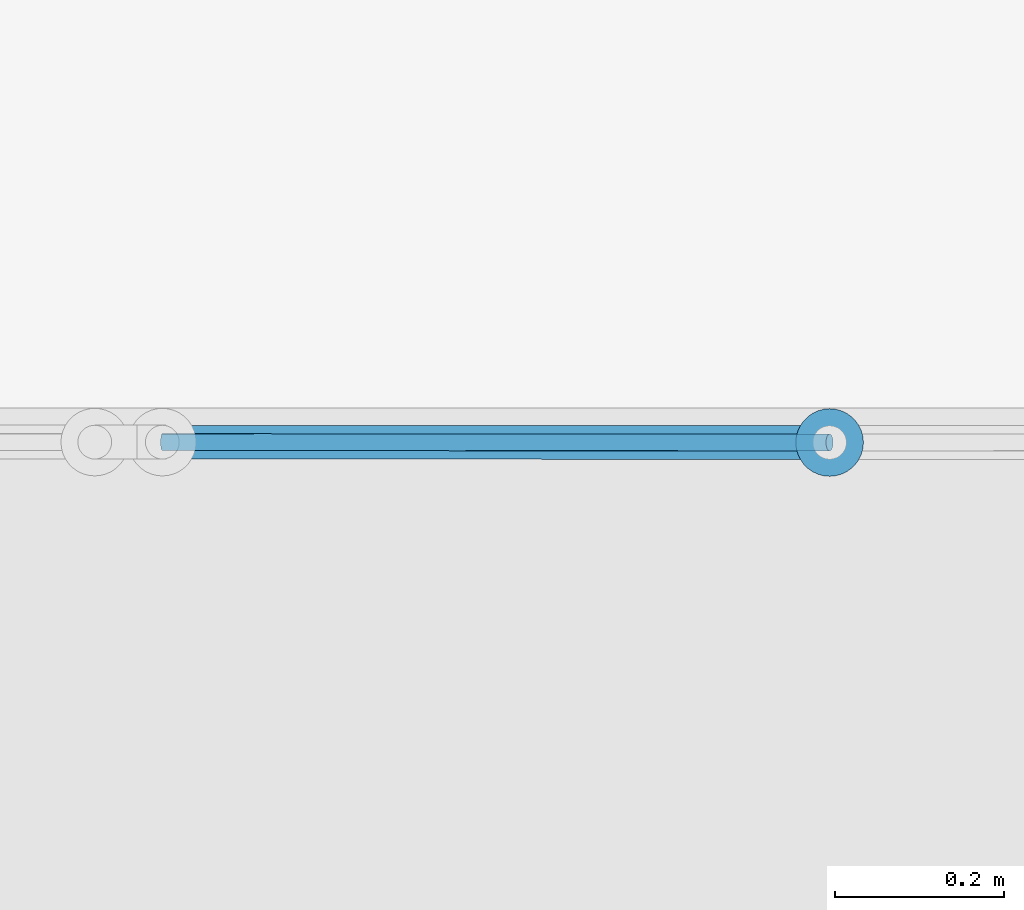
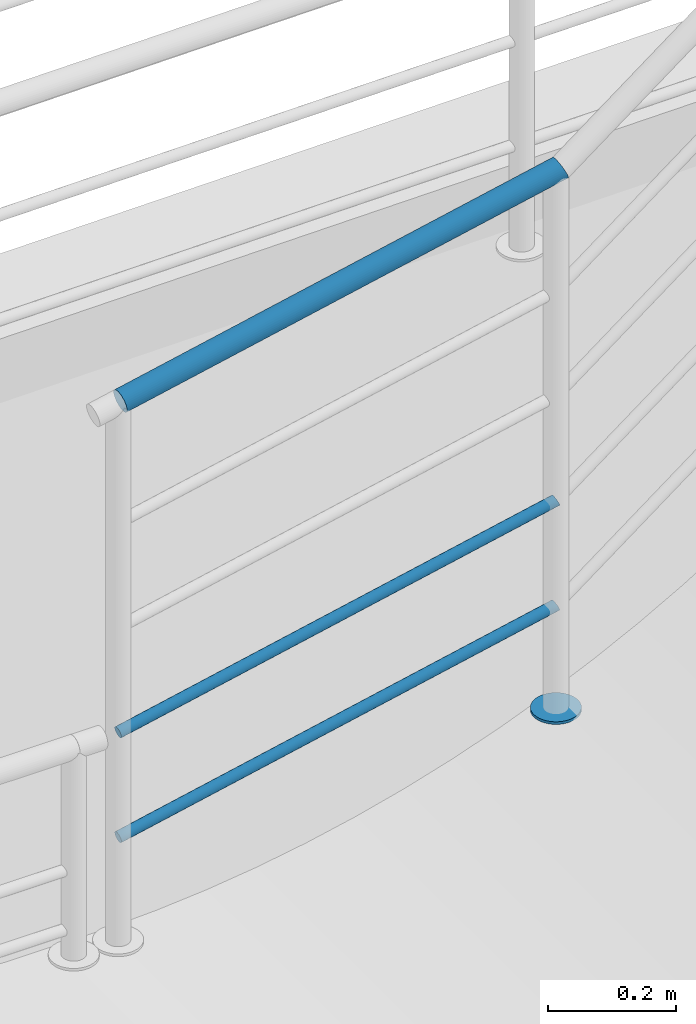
# One storey, part 117 of 237: 5 building element parts, 1 element without a shape of its own.
"""IFC2X3 building model written with IfcOpenShell, lengths in millimetres."""

from ifc_helpers import new_model, entity, si_unit, converted_unit, derived_unit, money_unit, direction, frame, origin_with_axes, place, context, subcontext, project, spatial, faceted_brep, material, type_object, element, aggregate, save


model = new_model("IFC2X3")

# Units and contexts
model_context = context("Model", 3, precision=0.01, world=origin_with_axes(), true_north=direction((0.0, 1.0)))
body_context = subcontext(model_context, "Body", "Model", "MODEL_VIEW")
ifc_project = project(units=[si_unit("LENGTHUNIT", "METRE", prefix="MILLI"), si_unit("AREAUNIT", "SQUARE_METRE"), si_unit("VOLUMEUNIT", "CUBIC_METRE"), converted_unit("PLANEANGLEUNIT", "DEGREE", entity("IfcPlaneAngleMeasure", 0.0174532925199), si_unit("PLANEANGLEUNIT", "RADIAN"), dimensions=[0, 0, 0, 0, 0, 0, 0]), money_unit("USD"), converted_unit("TIMEUNIT", "Year", entity("IfcTimeMeasure", 31556926.0), si_unit("TIMEUNIT", "SECOND"), dimensions=[0, 0, 1, 0, 0, 0, 0]), si_unit("MASSUNIT", "GRAM", prefix="KILO"), si_unit("THERMODYNAMICTEMPERATUREUNIT", "DEGREE_CELSIUS"), si_unit("LUMINOUSINTENSITYUNIT", "LUMEN"), si_unit("ENERGYUNIT", "JOULE", prefix="MEGA"), derived_unit("THERMALCONDUCTANCEUNIT", [(si_unit("POWERUNIT", "WATT"), 1), (si_unit("LENGTHUNIT", "METRE"), -1), (si_unit("THERMODYNAMICTEMPERATUREUNIT", "KELVIN"), -1)]), derived_unit("SPECIFICHEATCAPACITYUNIT", [(si_unit("ENERGYUNIT", "JOULE"), 1), (si_unit("MASSUNIT", "GRAM", prefix="KILO"), -1), (si_unit("THERMODYNAMICTEMPERATUREUNIT", "KELVIN"), -1)]), derived_unit("MASSDENSITYUNIT", [(si_unit("MASSUNIT", "GRAM", prefix="KILO"), 1), (si_unit("VOLUMEUNIT", "CUBIC_METRE"), -1)])], contexts=[model_context])

# Site, building, storey
site_placement = place(None, origin_with_axes())
site = spatial("IfcSite", under=ifc_project, at=site_placement, Name="Local", CompositionType="ELEMENT")
building_placement = place(site_placement, origin_with_axes())
building = spatial("IfcBuilding", under=site, at=building_placement, Name="Construção", CompositionType="ELEMENT")
storey_placement = place(building_placement, origin_with_axes())
storey = spatial("IfcBuildingStorey", under=building, at=storey_placement, Name="Pavimento Térreo", CompositionType="ELEMENT", Elevation=0.0)

# Railing, building element parts
railing_type = type_object("IfcRailingType", Name="Tipo de Guarda-Corpo", PredefinedType="NOTDEFINED")
railing_placement = place(storey_placement, frame((61612.4440926, 28006.4497128, -1265.99547451), z_axis=(0.0, 0.0, 1.0), x_axis=(-1.0, 0.0, 0.0)))
railing = element("IfcRailing", 1, at=railing_placement, inside=storey, type_object=railing_type, Name="Guarda-Corpo - 001", PredefinedType="NOTDEFINED")
ifc_material_1 = material(Name="Alumínio")
building_element_part_1_placement = place(railing_placement, origin_with_axes())
building_element_part_1 = element("IfcBuildingElementPart", 2, at=building_element_part_1_placement, material=ifc_material_1, Name="Alumínio", context=body_context, shape_type="Brep", body=[
    faceted_brep([(-789.670537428, -5847.77841823, 175.123116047), (-790.281802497, -5840.83280484, 175.123116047), (-790.281802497, -5840.83280484, 180.123116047), (-789.670537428, -5847.77841823, 180.123116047), (-790.274651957, -5854.72465721, 175.123116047), (-792.07579037, -5861.46046383, 175.123116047), (-795.019225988, -5867.781174, 175.123116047), (-799.015524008, -5873.49473616, 175.123116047), (-803.943258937, -5878.42754659, 175.123116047), (-809.652704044, -5882.42972437, 175.123116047), (-815.970380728, -5885.37966533, 175.123116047), (-822.70432958, -5887.18773702, 175.123116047), (-829.649942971, -5887.79900209, 175.123116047), (-836.596181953, -5887.19488756, 175.123116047), (-843.33198857, -5885.39374914, 175.123116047), (-849.652698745, -5882.45031353, 175.123116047), (-855.3662609, -5878.45401551, 175.123116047), (-860.299071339, -5873.52628058, 175.123116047), (-864.301249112, -5867.81683547, 175.123116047), (-867.251190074, -5861.49915879, 175.123116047), (-869.059261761, -5854.76520993, 175.123116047), (-869.67052683, -5847.81959654, 175.123116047), (-869.066412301, -5840.87335756, 175.123116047), (-867.265273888, -5834.13755094, 175.123116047), (-864.321838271, -5827.81684077, 175.123116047), (-860.325540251, -5822.10327861, 175.123116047), (-855.397805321, -5817.17046818, 175.123116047), (-849.688360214, -5813.1682904, 175.123116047), (-843.37068353, -5810.21834944, 175.123116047), (-836.636734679, -5808.41027775, 175.123116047), (-829.691121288, -5807.79901268, 175.123116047), (-822.744882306, -5808.40312721, 175.123116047), (-816.009075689, -5810.20426563, 175.123116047), (-809.688365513, -5813.14770124, 175.123116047), (-803.974803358, -5817.14399926, 175.123116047), (-799.04199292, -5822.07173419, 175.123116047), (-795.039815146, -5827.7811793, 175.123116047), (-792.089874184, -5834.09885598, 175.123116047), (-792.089874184, -5834.09885598, 180.123116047), (-795.039815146, -5827.7811793, 180.123116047), (-799.04199292, -5822.07173419, 180.123116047), (-803.974803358, -5817.14399926, 180.123116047), (-809.688365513, -5813.14770124, 180.123116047), (-816.009075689, -5810.20426563, 180.123116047), (-822.744882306, -5808.40312721, 180.123116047), (-829.691121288, -5807.79901268, 180.123116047), (-836.636734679, -5808.41027775, 180.123116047), (-843.37068353, -5810.21834944, 180.123116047), (-849.688360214, -5813.1682904, 180.123116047), (-855.397805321, -5817.17046818, 180.123116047), (-860.325540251, -5822.10327861, 180.123116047), (-864.321838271, -5827.81684077, 180.123116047), (-867.265273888, -5834.13755094, 180.123116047), (-869.066412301, -5840.87335756, 180.123116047), (-869.67052683, -5847.81959654, 180.123116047), (-869.059261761, -5854.76520993, 180.123116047), (-867.251190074, -5861.49915879, 180.123116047), (-864.301249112, -5867.81683547, 180.123116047), (-860.299071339, -5873.52628058, 180.123116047), (-855.3662609, -5878.45401551, 180.123116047), (-849.652698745, -5882.45031353, 180.123116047), (-843.33198857, -5885.39374914, 180.123116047), (-836.596181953, -5887.19488756, 180.123116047), (-829.649942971, -5887.79900209, 180.123116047), (-822.70432958, -5887.18773702, 180.123116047), (-815.970380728, -5885.37966533, 180.123116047), (-809.652704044, -5882.42972437, 180.123116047), (-803.943258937, -5878.42754659, 180.123116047), (-799.015524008, -5873.49473616, 180.123116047), (-795.019225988, -5867.781174, 180.123116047), (-792.07579037, -5861.46046383, 180.123116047), (-790.274651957, -5854.72465721, 180.123116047)], [[[0, 1, 2, 3]], [[0, 4, 5, 6, 7, 8, 9, 10, 11, 12, 13, 14, 15, 16, 17, 18, 19, 20, 21, 22, 23, 24, 25, 26, 27, 28, 29, 30, 31, 32, 33, 34, 35, 36, 37, 1]], [[1, 37, 38, 2]], [[3, 2, 38, 39, 40, 41, 42, 43, 44, 45, 46, 47, 48, 49, 50, 51, 52, 53, 54, 55, 56, 57, 58, 59, 60, 61, 62, 63, 64, 65, 66, 67, 68, 69, 70, 71]], [[4, 0, 3, 71]], [[5, 4, 71, 70]], [[6, 5, 70, 69]], [[7, 6, 69, 68]], [[8, 7, 68, 67]], [[9, 8, 67, 66]], [[10, 9, 66, 65]], [[11, 10, 65, 64]], [[12, 11, 64, 63]], [[13, 12, 63, 62]], [[14, 13, 62, 61]], [[15, 14, 61, 60]], [[16, 15, 60, 59]], [[17, 16, 59, 58]], [[18, 17, 58, 57]], [[19, 18, 57, 56]], [[20, 19, 56, 55]], [[21, 20, 55, 54]], [[22, 21, 54, 53]], [[23, 22, 53, 52]], [[24, 23, 52, 51]], [[25, 24, 51, 50]], [[26, 25, 50, 49]], [[27, 26, 49, 48]], [[28, 27, 48, 47]], [[29, 28, 47, 46]], [[30, 29, 46, 45]], [[31, 30, 45, 44]], [[32, 31, 44, 43]], [[33, 32, 43, 42]], [[34, 33, 42, 41]], [[35, 34, 41, 40]], [[36, 35, 40, 39]], [[37, 36, 39, 38]]]),
])
ifc_material_2 = material(Name="Aço - Inoxidável")
building_element_part_2_placement = place(railing_placement, origin_with_axes())
building_element_part_2 = element("IfcBuildingElementPart", 3, at=building_element_part_2_placement, material=ifc_material_2, Name="Aço - Inoxidável", context=body_context, shape_type="Brep", body=[
    faceted_brep([(-838.156856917, -5827.7983508, 1206.4844273), (-836.682977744, -5828.10230941, 1209.72280317), (-43.3799134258, -5828.54318147, 1042.27257724), (-839.630782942, -5828.10208214, 1203.24605142), (-841.059971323, -5829.00427469, 1200.10607196), (-842.400996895, -5830.47751581, 1197.15989559), (-843.613113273, -5832.4770418, 1194.49704041), (-844.659490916, -5834.94209807, 1192.1984159), (-845.508336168, -5837.79778515, 1190.33386463), (-846.133857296, -5840.95733442, 1188.96004003), (-846.517048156, -5844.32474457, 1188.11868507), (-846.646265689, -5847.79769856, 1187.83536389), (-846.517583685, -5851.27067243, 1188.11868507), (-846.134912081, -5854.63814164, 1188.96004003), (-845.509878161, -5857.79778732, 1190.33386463), (-844.661473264, -5860.65360526, 1192.1984159), (-843.615475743, -5863.11882285, 1194.49704041), (-842.403667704, -5865.11853573, 1197.15989559), (-841.062869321, -5866.59198361, 1200.10607196), (-839.633820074, -5867.49439654, 1203.24605142), (-838.159940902, -5867.79835515, 1206.4844273), (-836.686014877, -5867.49462381, 1209.72280317), (-835.256826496, -5866.59243125, 1212.86278263), (-833.915800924, -5865.11919014, 1215.808959), (-832.703684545, -5863.11966415, 1218.47181418), (-831.657306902, -5860.65460787, 1220.77043869), (-830.80846165, -5857.7989208, 1222.63498996), (-830.182940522, -5854.63937153, 1224.00881456), (-829.799749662, -5851.27196137, 1224.85016952), (-829.670532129, -5847.79900738, 1225.1334907), (-829.799214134, -5844.32603351, 1224.85016952), (-830.181885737, -5840.95856431, 1224.00881456), (-830.806919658, -5837.79891862, 1222.63498996), (-831.655324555, -5834.94310069, 1220.77043869), (-832.701322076, -5832.47788309, 1218.47181418), (-833.913130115, -5830.47817022, 1215.808959), (-835.253928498, -5829.00472234, 1212.86278263), (-42.6849371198, -5829.44587345, 1045.56741453), (-44.0970189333, -5828.23893489, 1038.87449083), (-44.8144647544, -5828.5423781, 1035.47640441), (-45.5104516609, -5829.44429112, 1032.18156713), (-46.1638324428, -5830.91726979, 1029.09009095), (-46.7547544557, -5832.9165584, 1026.2959088), (-47.2652628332, -5835.38140956, 1023.88392051), (-47.6798460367, -5838.23693003, 1021.92741311), (-47.9859071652, -5841.39635626, 1020.48583409), (-48.1741467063, -5844.76369069, 1019.6029851), (-48.2388450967, -5848.23661855, 1019.30569106), (-48.1780365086, -5851.70961671, 1019.6029851), (-47.9935685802, -5855.07715985, 1020.48583409), (-47.6910462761, -5858.2369269, 1021.92741311), (-47.2796615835, -5861.09290992, 1023.88392051), (-46.7719142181, -5863.55833132, 1026.2959088), (-46.1832318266, -5865.55828051, 1029.09009095), (-45.5315012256, -5867.03199006, 1032.18156713), (-44.8365249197, -5867.93468204, 1035.47640441), (-44.1194194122, -5868.23892862, 1038.87449083), (-43.4019735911, -5867.93548541, 1042.27257724), (-42.7059866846, -5867.03357238, 1045.56741453), (-42.0526059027, -5865.56059371, 1048.65889071), (-41.4616838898, -5863.56130511, 1051.45307285), (-40.9511755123, -5861.09645395, 1053.86506114), (-40.5365923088, -5858.24093348, 1055.82156854), (-40.2305311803, -5855.08150725, 1057.26314756), (-40.0422916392, -5851.71417282, 1058.14599655), (-39.9775932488, -5848.24124495, 1058.44329059), (-40.0384018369, -5844.7682468, 1058.14599655), (-40.2228697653, -5841.40070366, 1057.26314756), (-40.5253920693, -5838.24093661, 1055.82156854), (-40.936776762, -5835.38495359, 1053.86506114), (-41.4445241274, -5832.91953219, 1051.45307285), (-42.0332065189, -5830.919583, 1048.65889071)], [[[0, 1, 2]], [[0, 3, 4, 5, 6, 7, 8, 9, 10, 11, 12, 13, 14, 15, 16, 17, 18, 19, 20, 21, 22, 23, 24, 25, 26, 27, 28, 29, 30, 31, 32, 33, 34, 35, 36, 1]], [[1, 37, 2]], [[0, 2, 38]], [[3, 0, 38]], [[4, 3, 39]], [[5, 4, 40]], [[6, 5, 41]], [[7, 6, 42]], [[8, 7, 43]], [[9, 8, 44]], [[10, 9, 45]], [[11, 10, 46]], [[12, 11, 47]], [[13, 12, 48]], [[14, 13, 49]], [[15, 14, 50]], [[16, 15, 51]], [[17, 16, 52]], [[18, 17, 53]], [[19, 18, 54]], [[20, 19, 55]], [[21, 20, 56]], [[22, 21, 57]], [[23, 22, 58]], [[24, 23, 59]], [[25, 24, 60]], [[26, 25, 61]], [[27, 26, 62]], [[28, 27, 63]], [[29, 28, 64]], [[30, 29, 65]], [[31, 30, 66]], [[32, 31, 67]], [[33, 32, 68]], [[34, 33, 69]], [[35, 34, 70]], [[36, 35, 71]], [[1, 36, 37]], [[38, 2, 37, 71, 70, 69, 68, 67, 66, 65, 64, 63, 62, 61, 60, 59, 58, 57, 56, 55, 54, 53, 52, 51, 50, 49, 48, 47, 46, 45, 44, 43, 42, 41, 40, 39]], [[3, 38, 39]], [[4, 39, 40]], [[5, 40, 41]], [[6, 41, 42]], [[7, 42, 43]], [[8, 43, 44]], [[9, 44, 45]], [[10, 45, 46]], [[11, 46, 47]], [[12, 47, 48]], [[13, 48, 49]], [[14, 49, 50]], [[15, 50, 51]], [[16, 51, 52]], [[17, 52, 53]], [[18, 53, 54]], [[19, 54, 55]], [[20, 55, 56]], [[21, 56, 57]], [[22, 57, 58]], [[23, 58, 59]], [[24, 59, 60]], [[25, 60, 61]], [[26, 61, 62]], [[27, 62, 63]], [[28, 63, 64]], [[29, 64, 65]], [[30, 65, 66]], [[31, 66, 67]], [[32, 67, 68]], [[33, 68, 69]], [[34, 69, 70]], [[35, 70, 71]], [[36, 71, 37]]]),
])
building_element_part_3_placement = place(railing_placement, origin_with_axes())
building_element_part_3 = element("IfcBuildingElementPart", 4, at=building_element_part_3_placement, material=ifc_material_2, Name="Aço - Inoxidável", context=body_context, shape_type="Brep", body=[
    faceted_brep([(-829.669761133, -5837.7990063, 375.133490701), (-828.932821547, -5837.9509856, 376.752678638), (-39.6134403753, -5838.39336981, 210.142333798), (-830.406724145, -5837.95087197, 373.514302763), (-831.121318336, -5838.40196825, 371.944313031), (-831.791831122, -5839.1385888, 370.471224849), (-832.397889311, -5840.1383518, 369.139797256), (-832.921078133, -5841.37087994, 367.990485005), (-833.345500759, -5842.79872347, 367.058209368), (-833.658261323, -5844.37849811, 366.371297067), (-833.849856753, -5846.06220318, 365.950619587), (-833.914465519, -5847.79868018, 365.808958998), (-833.850124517, -5849.53516712, 365.950619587), (-833.658788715, -5851.21890172, 366.371297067), (-833.346271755, -5852.79872456, 367.058209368), (-832.922069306, -5854.22663353, 367.990485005), (-832.399070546, -5855.45924232, 369.139797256), (-831.793166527, -5856.45909876, 370.471224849), (-831.122767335, -5857.1958227, 371.944313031), (-830.408242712, -5857.64702917, 373.514302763), (-829.671303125, -5857.79900847, 375.133490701), (-828.934340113, -5857.6471428, 376.752678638), (-828.219745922, -5857.19604652, 378.32266837), (-827.549233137, -5856.45942597, 379.795756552), (-826.943174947, -5855.45966297, 381.127184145), (-826.419986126, -5854.22713483, 382.276496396), (-825.9955635, -5852.7992913, 383.208772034), (-825.682802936, -5851.21951666, 383.895684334), (-825.491207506, -5849.53581158, 384.316361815), (-825.426598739, -5847.79933459, 384.458022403), (-825.490939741, -5846.06284765, 384.316361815), (-825.682275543, -5844.37911305, 383.895684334), (-825.994792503, -5842.79929021, 383.208772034), (-826.418994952, -5841.37138124, 382.276496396), (-826.941993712, -5840.13877245, 381.127184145), (-827.547897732, -5839.13891601, 379.795756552), (-828.218296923, -5838.40219207, 378.32266837), (-39.2659522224, -5838.8447158, 211.789752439), (-39.9719931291, -5838.24124652, 208.443290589), (-40.3307160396, -5838.39296813, 206.74424738), (-40.6787094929, -5838.84392464, 205.096828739), (-41.0053998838, -5839.58041397, 203.551090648), (-41.3008608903, -5840.58005828, 202.153999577), (-41.556115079, -5841.81248386, 200.948005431), (-41.7634066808, -5843.24024409, 199.969751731), (-41.916437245, -5844.81995721, 199.248962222), (-42.0105570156, -5846.50362442, 198.807537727), (-42.0429062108, -5848.24008835, 198.658890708), (-42.0125019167, -5849.97658743, 198.807537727), (-41.9202679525, -5851.660359, 199.248962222), (-41.7690068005, -5853.24024253, 199.969751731), (-41.5633144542, -5854.66823404, 200.948005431), (-41.3094407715, -5855.90094474, 202.153999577), (-41.0150995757, -5856.90091933, 203.551090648), (-40.6892342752, -5857.63777411, 205.096828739), (-40.3417461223, -5858.0891201, 206.74424738), (-39.9831933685, -5858.24124339, 208.443290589), (-39.624470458, -5858.08952178, 210.142333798), (-39.2764770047, -5857.63856527, 211.789752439), (-38.9497866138, -5856.90207593, 213.335490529), (-38.6543256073, -5855.90243163, 214.732581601), (-38.3990714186, -5854.67000605, 215.938575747), (-38.1917798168, -5853.24224582, 216.916829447), (-38.0387492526, -5851.6625327, 217.637618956), (-37.944629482, -5849.97886549, 218.07904345), (-37.9122802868, -5848.24240156, 218.22769047), (-37.9426845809, -5846.50590248, 218.07904345), (-38.0349185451, -5844.82213091, 217.637618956), (-38.1861796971, -5843.24224738, 216.916829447), (-38.3918720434, -5841.81425587, 215.938575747), (-38.6457457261, -5840.58154517, 214.732581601), (-38.9400869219, -5839.58157058, 213.335490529)], [[[0, 1, 2]], [[0, 3, 4, 5, 6, 7, 8, 9, 10, 11, 12, 13, 14, 15, 16, 17, 18, 19, 20, 21, 22, 23, 24, 25, 26, 27, 28, 29, 30, 31, 32, 33, 34, 35, 36, 1]], [[1, 37, 2]], [[0, 2, 38]], [[3, 0, 38]], [[4, 3, 39]], [[5, 4, 40]], [[6, 5, 41]], [[7, 6, 42]], [[8, 7, 43]], [[9, 8, 44]], [[10, 9, 45]], [[11, 10, 46]], [[12, 11, 47]], [[13, 12, 48]], [[14, 13, 49]], [[15, 14, 50]], [[16, 15, 51]], [[17, 16, 52]], [[18, 17, 53]], [[19, 18, 54]], [[20, 19, 55]], [[21, 20, 56]], [[22, 21, 57]], [[23, 22, 58]], [[24, 23, 59]], [[25, 24, 60]], [[26, 25, 61]], [[27, 26, 62]], [[28, 27, 63]], [[29, 28, 64]], [[30, 29, 65]], [[31, 30, 66]], [[32, 31, 67]], [[33, 32, 68]], [[34, 33, 69]], [[35, 34, 70]], [[36, 35, 71]], [[1, 36, 37]], [[38, 2, 37, 71, 70, 69, 68, 67, 66, 65, 64, 63, 62, 61, 60, 59, 58, 57, 56, 55, 54, 53, 52, 51, 50, 49, 48, 47, 46, 45, 44, 43, 42, 41, 40, 39]], [[3, 38, 39]], [[4, 39, 40]], [[5, 40, 41]], [[6, 41, 42]], [[7, 42, 43]], [[8, 43, 44]], [[9, 44, 45]], [[10, 45, 46]], [[11, 46, 47]], [[12, 47, 48]], [[13, 48, 49]], [[14, 49, 50]], [[15, 50, 51]], [[16, 51, 52]], [[17, 52, 53]], [[18, 53, 54]], [[19, 54, 55]], [[20, 55, 56]], [[21, 56, 57]], [[22, 57, 58]], [[23, 58, 59]], [[24, 59, 60]], [[25, 60, 61]], [[26, 61, 62]], [[27, 62, 63]], [[28, 63, 64]], [[29, 64, 65]], [[30, 65, 66]], [[31, 66, 67]], [[32, 67, 68]], [[33, 68, 69]], [[34, 69, 70]], [[35, 70, 71]], [[36, 71, 37]]]),
])
building_element_part_4_placement = place(railing_placement, origin_with_axes())
building_element_part_4 = element("IfcBuildingElementPart", 5, at=building_element_part_4_placement, material=ifc_material_2, Name="Aço - Inoxidável", context=body_context, shape_type="Brep", body=[
    faceted_brep([(-829.669761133, -5837.7990063, 575.133490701), (-828.932821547, -5837.9509856, 576.752678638), (-39.6134403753, -5838.39336981, 410.142333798), (-830.406724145, -5837.95087197, 573.514302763), (-831.121318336, -5838.40196825, 571.944313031), (-831.791831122, -5839.1385888, 570.471224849), (-832.397889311, -5840.1383518, 569.139797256), (-832.921078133, -5841.37087994, 567.990485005), (-833.345500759, -5842.79872347, 567.058209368), (-833.658261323, -5844.37849811, 566.371297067), (-833.849856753, -5846.06220318, 565.950619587), (-833.914465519, -5847.79868018, 565.808958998), (-833.850124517, -5849.53516712, 565.950619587), (-833.658788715, -5851.21890172, 566.371297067), (-833.346271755, -5852.79872456, 567.058209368), (-832.922069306, -5854.22663353, 567.990485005), (-832.399070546, -5855.45924232, 569.139797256), (-831.793166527, -5856.45909876, 570.471224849), (-831.122767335, -5857.1958227, 571.944313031), (-830.408242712, -5857.64702917, 573.514302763), (-829.671303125, -5857.79900847, 575.133490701), (-828.934340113, -5857.6471428, 576.752678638), (-828.219745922, -5857.19604652, 578.32266837), (-827.549233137, -5856.45942597, 579.795756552), (-826.943174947, -5855.45966297, 581.127184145), (-826.419986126, -5854.22713483, 582.276496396), (-825.9955635, -5852.7992913, 583.208772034), (-825.682802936, -5851.21951666, 583.895684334), (-825.491207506, -5849.53581158, 584.316361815), (-825.426598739, -5847.79933459, 584.458022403), (-825.490939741, -5846.06284765, 584.316361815), (-825.682275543, -5844.37911305, 583.895684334), (-825.994792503, -5842.79929021, 583.208772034), (-826.418994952, -5841.37138124, 582.276496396), (-826.941993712, -5840.13877245, 581.127184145), (-827.547897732, -5839.13891601, 579.795756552), (-828.218296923, -5838.40219207, 578.32266837), (-39.2659522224, -5838.8447158, 411.789752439), (-39.9719931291, -5838.24124652, 408.443290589), (-40.3307160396, -5838.39296813, 406.74424738), (-40.6787094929, -5838.84392464, 405.096828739), (-41.0053998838, -5839.58041397, 403.551090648), (-41.3008608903, -5840.58005828, 402.153999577), (-41.556115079, -5841.81248386, 400.948005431), (-41.7634066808, -5843.24024409, 399.969751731), (-41.916437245, -5844.81995721, 399.248962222), (-42.0105570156, -5846.50362442, 398.807537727), (-42.0429062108, -5848.24008835, 398.658890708), (-42.0125019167, -5849.97658743, 398.807537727), (-41.9202679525, -5851.660359, 399.248962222), (-41.7690068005, -5853.24024253, 399.969751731), (-41.5633144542, -5854.66823404, 400.948005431), (-41.3094407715, -5855.90094474, 402.153999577), (-41.0150995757, -5856.90091933, 403.551090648), (-40.6892342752, -5857.63777411, 405.096828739), (-40.3417461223, -5858.0891201, 406.74424738), (-39.9831933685, -5858.24124339, 408.443290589), (-39.624470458, -5858.08952178, 410.142333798), (-39.2764770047, -5857.63856527, 411.789752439), (-38.9497866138, -5856.90207593, 413.335490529), (-38.6543256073, -5855.90243163, 414.732581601), (-38.3990714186, -5854.67000605, 415.938575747), (-38.1917798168, -5853.24224582, 416.916829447), (-38.0387492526, -5851.6625327, 417.637618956), (-37.944629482, -5849.97886549, 418.07904345), (-37.9122802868, -5848.24240156, 418.22769047), (-37.9426845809, -5846.50590248, 418.07904345), (-38.0349185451, -5844.82213091, 417.637618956), (-38.1861796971, -5843.24224738, 416.916829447), (-38.3918720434, -5841.81425587, 415.938575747), (-38.6457457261, -5840.58154517, 414.732581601), (-38.9400869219, -5839.58157058, 413.335490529)], [[[0, 1, 2]], [[0, 3, 4, 5, 6, 7, 8, 9, 10, 11, 12, 13, 14, 15, 16, 17, 18, 19, 20, 21, 22, 23, 24, 25, 26, 27, 28, 29, 30, 31, 32, 33, 34, 35, 36, 1]], [[1, 37, 2]], [[0, 2, 38]], [[3, 0, 38]], [[4, 3, 39]], [[5, 4, 40]], [[6, 5, 41]], [[7, 6, 42]], [[8, 7, 43]], [[9, 8, 44]], [[10, 9, 45]], [[11, 10, 46]], [[12, 11, 47]], [[13, 12, 48]], [[14, 13, 49]], [[15, 14, 50]], [[16, 15, 51]], [[17, 16, 52]], [[18, 17, 53]], [[19, 18, 54]], [[20, 19, 55]], [[21, 20, 56]], [[22, 21, 57]], [[23, 22, 58]], [[24, 23, 59]], [[25, 24, 60]], [[26, 25, 61]], [[27, 26, 62]], [[28, 27, 63]], [[29, 28, 64]], [[30, 29, 65]], [[31, 30, 66]], [[32, 31, 67]], [[33, 32, 68]], [[34, 33, 69]], [[35, 34, 70]], [[36, 35, 71]], [[1, 36, 37]], [[38, 2, 37, 71, 70, 69, 68, 67, 66, 65, 64, 63, 62, 61, 60, 59, 58, 57, 56, 55, 54, 53, 52, 51, 50, 49, 48, 47, 46, 45, 44, 43, 42, 41, 40, 39]], [[3, 38, 39]], [[4, 39, 40]], [[5, 40, 41]], [[6, 41, 42]], [[7, 42, 43]], [[8, 43, 44]], [[9, 44, 45]], [[10, 45, 46]], [[11, 46, 47]], [[12, 47, 48]], [[13, 48, 49]], [[14, 49, 50]], [[15, 50, 51]], [[16, 51, 52]], [[17, 52, 53]], [[18, 53, 54]], [[19, 54, 55]], [[20, 55, 56]], [[21, 56, 57]], [[22, 57, 58]], [[23, 58, 59]], [[24, 59, 60]], [[25, 60, 61]], [[26, 61, 62]], [[27, 62, 63]], [[28, 63, 64]], [[29, 64, 65]], [[30, 65, 66]], [[31, 66, 67]], [[32, 67, 68]], [[33, 68, 69]], [[34, 69, 70]], [[35, 70, 71]], [[36, 71, 37]]]),
])
building_element_part_5_placement = place(railing_placement, origin_with_axes())
building_element_part_5 = element("IfcBuildingElementPart", 6, at=building_element_part_5_placement, material=ifc_material_2, Name="Aço - Inoxidável", context=body_context, shape_type="Brep", body=[
    faceted_brep([(-829.669761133, -5837.7990063, 575.133490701), (-828.932821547, -5837.9509856, 576.752678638), (-39.6134403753, -5838.39336981, 410.142333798), (-830.406724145, -5837.95087197, 573.514302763), (-831.121318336, -5838.40196825, 571.944313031), (-831.791831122, -5839.1385888, 570.471224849), (-832.397889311, -5840.1383518, 569.139797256), (-832.921078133, -5841.37087994, 567.990485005), (-833.345500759, -5842.79872347, 567.058209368), (-833.658261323, -5844.37849811, 566.371297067), (-833.849856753, -5846.06220318, 565.950619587), (-833.914465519, -5847.79868018, 565.808958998), (-833.850124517, -5849.53516712, 565.950619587), (-833.658788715, -5851.21890172, 566.371297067), (-833.346271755, -5852.79872456, 567.058209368), (-832.922069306, -5854.22663353, 567.990485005), (-832.399070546, -5855.45924232, 569.139797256), (-831.793166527, -5856.45909876, 570.471224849), (-831.122767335, -5857.1958227, 571.944313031), (-830.408242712, -5857.64702917, 573.514302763), (-829.671303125, -5857.79900847, 575.133490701), (-828.934340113, -5857.6471428, 576.752678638), (-828.219745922, -5857.19604652, 578.32266837), (-827.549233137, -5856.45942597, 579.795756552), (-826.943174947, -5855.45966297, 581.127184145), (-826.419986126, -5854.22713483, 582.276496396), (-825.9955635, -5852.7992913, 583.208772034), (-825.682802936, -5851.21951666, 583.895684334), (-825.491207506, -5849.53581158, 584.316361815), (-825.426598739, -5847.79933459, 584.458022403), (-825.490939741, -5846.06284765, 584.316361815), (-825.682275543, -5844.37911305, 583.895684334), (-825.994792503, -5842.79929021, 583.208772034), (-826.418994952, -5841.37138124, 582.276496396), (-826.941993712, -5840.13877245, 581.127184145), (-827.547897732, -5839.13891601, 579.795756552), (-828.218296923, -5838.40219207, 578.32266837), (-39.2659522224, -5838.8447158, 411.789752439), (-39.9719931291, -5838.24124652, 408.443290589), (-40.3307160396, -5838.39296813, 406.74424738), (-40.6787094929, -5838.84392464, 405.096828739), (-41.0053998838, -5839.58041397, 403.551090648), (-41.3008608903, -5840.58005828, 402.153999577), (-41.556115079, -5841.81248386, 400.948005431), (-41.7634066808, -5843.24024409, 399.969751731), (-41.916437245, -5844.81995721, 399.248962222), (-42.0105570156, -5846.50362442, 398.807537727), (-42.0429062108, -5848.24008835, 398.658890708), (-42.0125019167, -5849.97658743, 398.807537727), (-41.9202679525, -5851.660359, 399.248962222), (-41.7690068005, -5853.24024253, 399.969751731), (-41.5633144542, -5854.66823404, 400.948005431), (-41.3094407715, -5855.90094474, 402.153999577), (-41.0150995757, -5856.90091933, 403.551090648), (-40.6892342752, -5857.63777411, 405.096828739), (-40.3417461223, -5858.0891201, 406.74424738), (-39.9831933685, -5858.24124339, 408.443290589), (-39.624470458, -5858.08952178, 410.142333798), (-39.2764770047, -5857.63856527, 411.789752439), (-38.9497866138, -5856.90207593, 413.335490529), (-38.6543256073, -5855.90243163, 414.732581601), (-38.3990714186, -5854.67000605, 415.938575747), (-38.1917798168, -5853.24224582, 416.916829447), (-38.0387492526, -5851.6625327, 417.637618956), (-37.944629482, -5849.97886549, 418.07904345), (-37.9122802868, -5848.24240156, 418.22769047), (-37.9426845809, -5846.50590248, 418.07904345), (-38.0349185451, -5844.82213091, 417.637618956), (-38.1861796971, -5843.24224738, 416.916829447), (-38.3918720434, -5841.81425587, 415.938575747), (-38.6457457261, -5840.58154517, 414.732581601), (-38.9400869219, -5839.58157058, 413.335490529)], [[[0, 1, 2]], [[0, 3, 4, 5, 6, 7, 8, 9, 10, 11, 12, 13, 14, 15, 16, 17, 18, 19, 20, 21, 22, 23, 24, 25, 26, 27, 28, 29, 30, 31, 32, 33, 34, 35, 36, 1]], [[1, 37, 2]], [[0, 2, 38]], [[3, 0, 38]], [[4, 3, 39]], [[5, 4, 40]], [[6, 5, 41]], [[7, 6, 42]], [[8, 7, 43]], [[9, 8, 44]], [[10, 9, 45]], [[11, 10, 46]], [[12, 11, 47]], [[13, 12, 48]], [[14, 13, 49]], [[15, 14, 50]], [[16, 15, 51]], [[17, 16, 52]], [[18, 17, 53]], [[19, 18, 54]], [[20, 19, 55]], [[21, 20, 56]], [[22, 21, 57]], [[23, 22, 58]], [[24, 23, 59]], [[25, 24, 60]], [[26, 25, 61]], [[27, 26, 62]], [[28, 27, 63]], [[29, 28, 64]], [[30, 29, 65]], [[31, 30, 66]], [[32, 31, 67]], [[33, 32, 68]], [[34, 33, 69]], [[35, 34, 70]], [[36, 35, 71]], [[1, 36, 37]], [[38, 2, 37, 71, 70, 69, 68, 67, 66, 65, 64, 63, 62, 61, 60, 59, 58, 57, 56, 55, 54, 53, 52, 51, 50, 49, 48, 47, 46, 45, 44, 43, 42, 41, 40, 39]], [[3, 38, 39]], [[4, 39, 40]], [[5, 40, 41]], [[6, 41, 42]], [[7, 42, 43]], [[8, 43, 44]], [[9, 44, 45]], [[10, 45, 46]], [[11, 46, 47]], [[12, 47, 48]], [[13, 48, 49]], [[14, 49, 50]], [[15, 50, 51]], [[16, 51, 52]], [[17, 52, 53]], [[18, 53, 54]], [[19, 54, 55]], [[20, 55, 56]], [[21, 56, 57]], [[22, 57, 58]], [[23, 58, 59]], [[24, 59, 60]], [[25, 60, 61]], [[26, 61, 62]], [[27, 62, 63]], [[28, 63, 64]], [[29, 64, 65]], [[30, 65, 66]], [[31, 66, 67]], [[32, 67, 68]], [[33, 68, 69]], [[34, 69, 70]], [[35, 70, 71]], [[36, 71, 37]]]),
])
aggregate(railing, [building_element_part_1, building_element_part_2, building_element_part_3, building_element_part_4, building_element_part_5])

save(model, "model.ifc")
